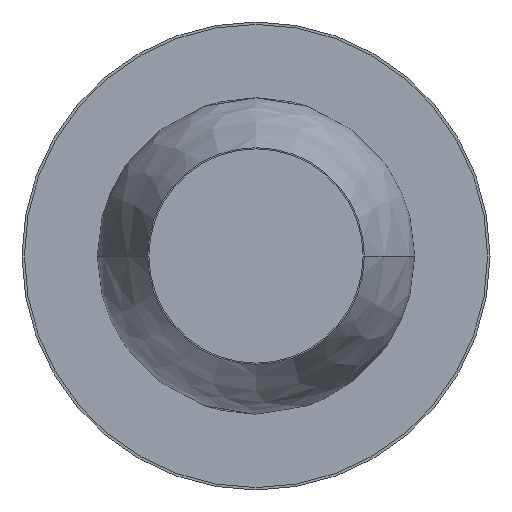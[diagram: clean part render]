
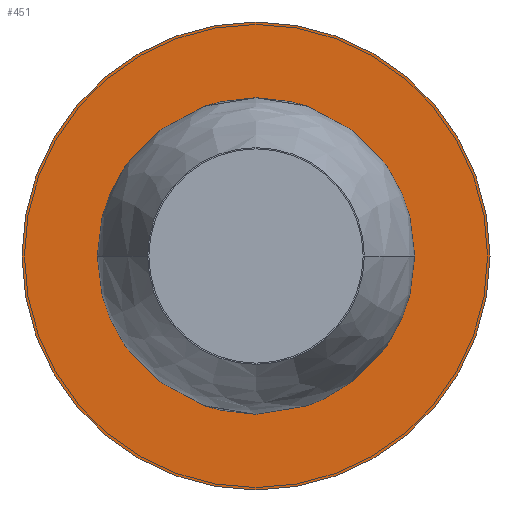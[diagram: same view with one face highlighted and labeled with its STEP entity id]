
A CAD part, front view. The second image highlights one B-rep face of the part: STEP entity #451.
In plain terms, the highlighted planar face has unit normal (0, -1, 0).
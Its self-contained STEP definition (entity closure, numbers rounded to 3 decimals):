
#32 = VERTEX_POINT ( 'NONE', #579 ) ;
#41 = AXIS2_PLACEMENT_3D ( 'NONE', #1089, #793, #423 ) ;
#55 = CARTESIAN_POINT ( 'NONE',  ( 1904.471, 1158.113, -356.003 ) ) ;
#72 = VERTEX_POINT ( 'NONE', #1252 ) ;
#83 = CARTESIAN_POINT ( 'NONE',  ( 1904.471, 1158.113, 0. ) ) ;
#127 = PLANE ( 'NONE',  #1236 ) ;
#216 = FACE_OUTER_BOUND ( 'NONE', #1105, .T. ) ;
#239 = CIRCLE ( 'NONE', #41, 356.003 ) ;
#285 = AXIS2_PLACEMENT_3D ( 'NONE', #892, #1082, #405 ) ;
#311 = AXIS2_PLACEMENT_3D ( 'NONE', #83, #853, #1045 ) ;
#400 = CARTESIAN_POINT ( 'NONE',  ( 1904.471, 1158.113, 10.695 ) ) ;
#405 = DIRECTION ( 'NONE',  ( 0., 0., -1. ) ) ;
#423 = DIRECTION ( 'NONE',  ( 0., 0., -1. ) ) ;
#428 = EDGE_CURVE ( 'NONE', #72, #909, #239, .T. ) ;
#451 = ADVANCED_FACE ( 'NONE', ( #216, #498 ), #127, .T. ) ;
#498 = FACE_BOUND ( 'NONE', #780, .T. ) ;
#506 = ORIENTED_EDGE ( 'NONE', *, *, #1040, .F. ) ;
#526 = CARTESIAN_POINT ( 'NONE',  ( 1893.775, 1158.113, 0. ) ) ;
#548 = DIRECTION ( 'NONE',  ( 0., -1., 0. ) ) ;
#550 = AXIS2_PLACEMENT_3D ( 'NONE', #553, #548, #1209 ) ;
#553 = CARTESIAN_POINT ( 'NONE',  ( 1904.471, 1158.113, 0. ) ) ;
#579 = CARTESIAN_POINT ( 'NONE',  ( 1904.471, 1158.113, -10.695 ) ) ;
#619 = DIRECTION ( 'NONE',  ( 0., 0., -1. ) ) ;
#630 = CIRCLE ( 'NONE', #285, 10.695 ) ;
#632 = ORIENTED_EDGE ( 'NONE', *, *, #1000, .T. ) ;
#637 = VERTEX_POINT ( 'NONE', #400 ) ;
#661 = CIRCLE ( 'NONE', #550, 356.003 ) ;
#707 = CIRCLE ( 'NONE', #311, 10.695 ) ;
#739 = EDGE_CURVE ( 'NONE', #32, #637, #630, .T. ) ;
#780 = EDGE_LOOP ( 'NONE', ( #827, #506 ) ) ;
#793 = DIRECTION ( 'NONE',  ( 0., -1., 0. ) ) ;
#827 = ORIENTED_EDGE ( 'NONE', *, *, #739, .F. ) ;
#853 = DIRECTION ( 'NONE',  ( 0., -1., 0. ) ) ;
#892 = CARTESIAN_POINT ( 'NONE',  ( 1904.471, 1158.113, 0. ) ) ;
#909 = VERTEX_POINT ( 'NONE', #55 ) ;
#1000 = EDGE_CURVE ( 'NONE', #909, #72, #661, .T. ) ;
#1001 = ORIENTED_EDGE ( 'NONE', *, *, #428, .T. ) ;
#1040 = EDGE_CURVE ( 'NONE', #637, #32, #707, .T. ) ;
#1045 = DIRECTION ( 'NONE',  ( 0., 0., -1. ) ) ;
#1082 = DIRECTION ( 'NONE',  ( 0., -1., 0. ) ) ;
#1089 = CARTESIAN_POINT ( 'NONE',  ( 1904.471, 1158.113, 0. ) ) ;
#1105 = EDGE_LOOP ( 'NONE', ( #632, #1001 ) ) ;
#1189 = DIRECTION ( 'NONE',  ( 0., -1., 0. ) ) ;
#1209 = DIRECTION ( 'NONE',  ( 0., 0., -1. ) ) ;
#1236 = AXIS2_PLACEMENT_3D ( 'NONE', #526, #1189, #619 ) ;
#1252 = CARTESIAN_POINT ( 'NONE',  ( 1904.471, 1158.113, 356.003 ) ) ;
